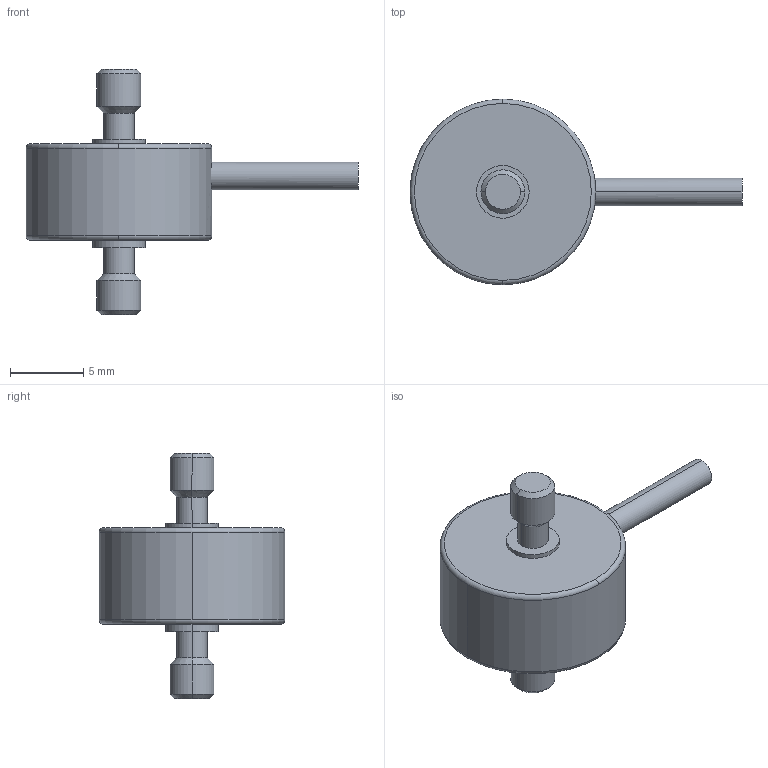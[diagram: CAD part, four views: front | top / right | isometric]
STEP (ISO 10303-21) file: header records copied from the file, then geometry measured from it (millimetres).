
FILE_DESCRIPTION(('STEP AP203'),'1');
FILE_NAME('C:/TPO v2/SharedFS/Outgoing/burster_8411-5_6nrvrwfi0pnf5wnddzhzcbowq.stp','2013-08-27T18:26:04',('TraceParts'),('TraceParts S.A.'),'XStep 1.0',' ',' ');
FILE_SCHEMA(('CONFIG_CONTROL_DESIGN'));
Length unit declared in the file: millimetre
Products named in the file (1): 1
Bounding box: 22.7 x 12.7 x 16.8 mm (x, y, z)
Volume: 922 mm3; surface area: 659 mm2
Topology: 1 solids, 1 shells, 35 faces, 76 edges, 47 vertices
Faces by surface type: cylinder 16, cone 8, plane 7, torus 4
Entity records: 1043 total; most frequent: CARTESIAN_POINT 194, DIRECTION 193, ORIENTED_EDGE 152, AXIS2_PLACEMENT_3D 84, EDGE_CURVE 76, CIRCLE 48, VERTEX_POINT 47, EDGE_LOOP 39
